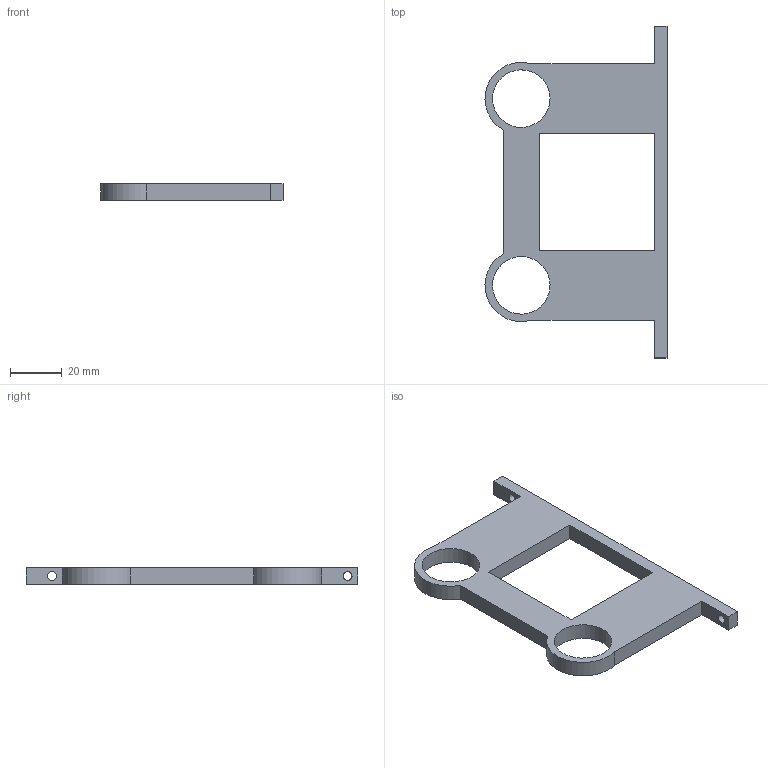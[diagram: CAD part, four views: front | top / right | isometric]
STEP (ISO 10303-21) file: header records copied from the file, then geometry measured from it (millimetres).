
FILE_DESCRIPTION(('Open CASCADE Model'),'2;1');
FILE_NAME('A10_M_internal_frame','2026-11-05T16:12:14',('Author'),( 'Open CASCADE'),'Open CASCADE STEP processor 7.9','build123d', 'Unknown');
FILE_SCHEMA(('AUTOMOTIVE_DESIGN { 1 0 10303 214 1 1 1 1 }'));
Length unit declared in the file: millimetre
Products named in the file (2): A10_M_internal_frame
Assembly tree (1 placements, depth 2):
  A10_M_internal_frame
    A10_M_internal_frame
Bounding box: 70.19 x 128 x 6.4 mm (x, y, z)
Volume: 24652.6 mm3; surface area: 12333.9 mm2
Topology: 1 solids, 1 shells, 20 faces, 54 edges, 36 vertices
Faces by surface type: plane 14, cylinder 6
Full cylindrical faces by diameter (mm): 3.4 x2, 22.2 x2
Entity records: 1398 total; most frequent: CARTESIAN_POINT 226, DIRECTION 212, LINE 132, VECTOR 132, ORIENTED_EDGE 108, PCURVE 108, DEFINITIONAL_REPRESENTATION 108, EDGE_CURVE 54
